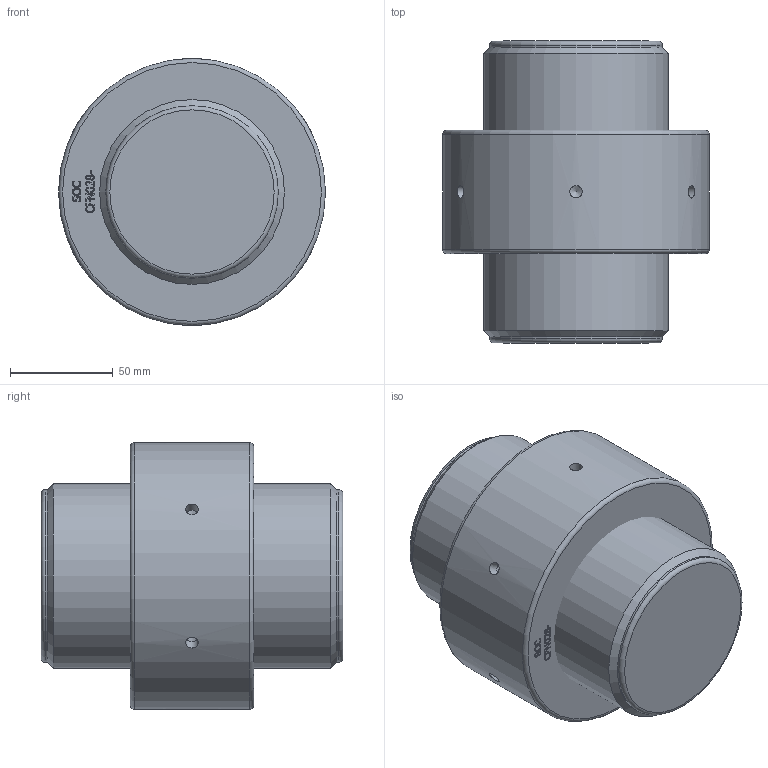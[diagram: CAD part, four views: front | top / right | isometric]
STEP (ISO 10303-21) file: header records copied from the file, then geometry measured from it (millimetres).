
FILE_DESCRIPTION(/* description */ (''),/* implementation_level */ '2;1');
FILE_NAME(/* name */ 'F:\Clienti LS\Redaelli\CYT\CYT\ARRNGEMENT\CYT028 61 061 0.stp',/* time_stamp */ '2021-05-09T08:42:27+02:00',/* author */ ('ranca'),/* organization */ (''),/* preprocessor_version */ 'ST-DEVELOPER v16.13',/* originating_system */ 'Autodesk Inventor 2018',/* authorisation */ '');
FILE_SCHEMA (('AUTOMOTIVE_DESIGN { 1 0 10303 214 3 1 1 }'));
Length unit declared in the file: millimetre
Products named in the file (3): CYT012-61-061-0; CYT012-61-061-0_1; CYT012-61-061-0_DADO
Assembly tree (2 placements, depth 2):
  CYT012-61-061-0
    CYT012-61-061-0_1
    CYT012-61-061-0_DADO
Bounding box: 130 x 147 x 130 mm (x, y, z)
Volume: 1376034.2 mm3; surface area: 108386.7 mm2
Topology: 2 solids, 2 shells, 352 faces, 959 edges, 639 vertices
Faces by surface type: bspline 208, plane 121, cylinder 11, cone 8, torus 4
Full cylindrical faces by diameter (mm): 6 x6, 84 x2, 85.67 x1, 90 x1, 130 x1
Entity records: 12204 total; most frequent: CARTESIAN_POINT 4820, ORIENTED_EDGE 1846, EDGE_CURVE 923, DIRECTION 813, VERTEX_POINT 626, LINE 475, VECTOR 475, B_SPLINE_CURVE_WITH_KNOTS 428
